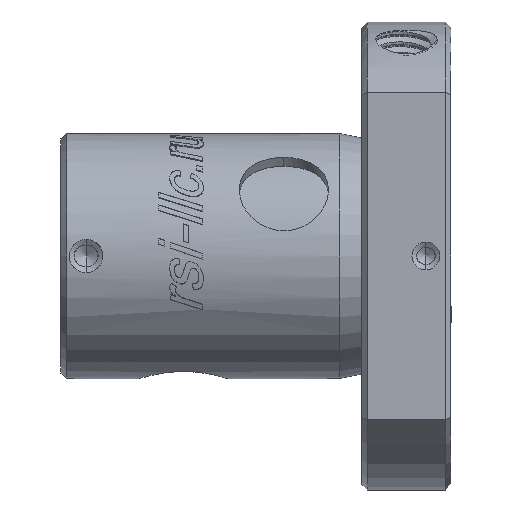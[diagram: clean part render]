
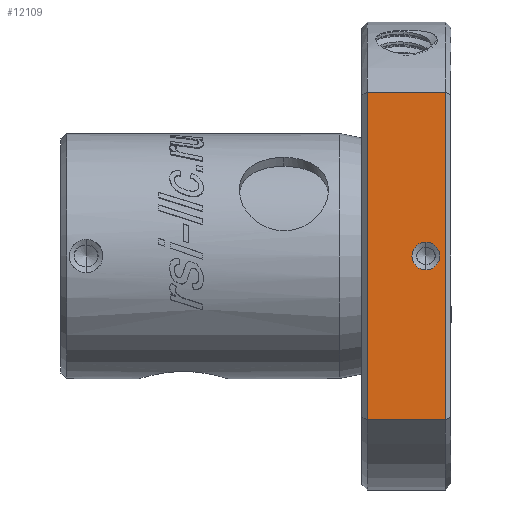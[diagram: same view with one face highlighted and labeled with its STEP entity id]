
A CAD part, left-side view. The second image highlights one B-rep face of the part: STEP entity #12109.
In plain terms, the highlighted planar face has unit normal (-1, 0, 0).
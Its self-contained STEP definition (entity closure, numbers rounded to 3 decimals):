
#29 = CARTESIAN_POINT ( 'NONE',  ( -15., 4., 14.697 ) ) ;
#160 = CARTESIAN_POINT ( 'NONE',  ( -15., -1.75, 0. ) ) ;
#574 = VERTEX_POINT ( 'NONE', #25692 ) ;
#617 = ORIENTED_EDGE ( 'NONE', *, *, #27209, .T. ) ;
#860 = FACE_BOUND ( 'NONE', #18561, .T. ) ;
#1470 = EDGE_CURVE ( 'NONE', #15155, #13333, #17891, .T. ) ;
#1780 = VECTOR ( 'NONE', #7256, 1000. ) ;
#2321 = DIRECTION ( 'NONE',  ( 0., 0., 1. ) ) ;
#2801 = CARTESIAN_POINT ( 'NONE',  ( -15., -3.5, -14.697 ) ) ;
#3237 = DIRECTION ( 'NONE',  ( -1., 0., 0. ) ) ;
#4374 = AXIS2_PLACEMENT_3D ( 'NONE', #16166, #3237, #18299 ) ;
#5169 = AXIS2_PLACEMENT_3D ( 'NONE', #8183, #10350, #25351 ) ;
#5172 = LINE ( 'NONE', #29, #17287 ) ;
#6492 = CIRCLE ( 'NONE', #15636, 1.25 ) ;
#6837 = LINE ( 'NONE', #22279, #1780 ) ;
#7045 = CARTESIAN_POINT ( 'NONE',  ( -15., -1.75, -1.25 ) ) ;
#7256 = DIRECTION ( 'NONE',  ( 0., 0., -1. ) ) ;
#7720 = DIRECTION ( 'NONE',  ( 0., 0., 1. ) ) ;
#8087 = PLANE ( 'NONE',  #5169 ) ;
#8183 = CARTESIAN_POINT ( 'NONE',  ( -15., 4., -14.697 ) ) ;
#9701 = ORIENTED_EDGE ( 'NONE', *, *, #19005, .T. ) ;
#10350 = DIRECTION ( 'NONE',  ( 1., 0., 0. ) ) ;
#11427 = VERTEX_POINT ( 'NONE', #15824 ) ;
#12109 = ADVANCED_FACE ( 'NONE', ( #860, #17335 ), #8087, .F. ) ;
#12226 = VECTOR ( 'NONE', #7720, 1000. ) ;
#12486 = VERTEX_POINT ( 'NONE', #2801 ) ;
#12837 = CARTESIAN_POINT ( 'NONE',  ( -15., -1.75, 1.25 ) ) ;
#12950 = DIRECTION ( 'NONE',  ( 0., -1., 0. ) ) ;
#13333 = VERTEX_POINT ( 'NONE', #12837 ) ;
#14873 = VECTOR ( 'NONE', #23653, 1000. ) ;
#15155 = VERTEX_POINT ( 'NONE', #7045 ) ;
#15245 = DIRECTION ( 'NONE',  ( -1., 0., 0. ) ) ;
#15636 = AXIS2_PLACEMENT_3D ( 'NONE', #160, #15245, #2321 ) ;
#15824 = CARTESIAN_POINT ( 'NONE',  ( -15., -3.5, 14.697 ) ) ;
#16048 = ORIENTED_EDGE ( 'NONE', *, *, #18393, .F. ) ;
#16166 = CARTESIAN_POINT ( 'NONE',  ( -15., -1.75, 0. ) ) ;
#17287 = VECTOR ( 'NONE', #12950, 1000. ) ;
#17335 = FACE_OUTER_BOUND ( 'NONE', #26194, .T. ) ;
#17891 = CIRCLE ( 'NONE', #4374, 1.25 ) ;
#17937 = LINE ( 'NONE', #20565, #12226 ) ;
#18299 = DIRECTION ( 'NONE',  ( 0., 0., 1. ) ) ;
#18393 = EDGE_CURVE ( 'NONE', #574, #11427, #5172, .T. ) ;
#18512 = ORIENTED_EDGE ( 'NONE', *, *, #18752, .T. ) ;
#18561 = EDGE_LOOP ( 'NONE', ( #26536, #20546 ) ) ;
#18752 = EDGE_CURVE ( 'NONE', #574, #25067, #6837, .T. ) ;
#19005 = EDGE_CURVE ( 'NONE', #12486, #11427, #17937, .T. ) ;
#20546 = ORIENTED_EDGE ( 'NONE', *, *, #1470, .F. ) ;
#20565 = CARTESIAN_POINT ( 'NONE',  ( -15., -3.5, -14.697 ) ) ;
#21513 = CARTESIAN_POINT ( 'NONE',  ( -15., 4., -14.697 ) ) ;
#22279 = CARTESIAN_POINT ( 'NONE',  ( -15., 3.5, -14.697 ) ) ;
#22796 = CARTESIAN_POINT ( 'NONE',  ( -15., 3.5, -14.697 ) ) ;
#23653 = DIRECTION ( 'NONE',  ( 0., -1., 0. ) ) ;
#24383 = EDGE_CURVE ( 'NONE', #13333, #15155, #6492, .T. ) ;
#25067 = VERTEX_POINT ( 'NONE', #22796 ) ;
#25351 = DIRECTION ( 'NONE',  ( 0., 0., -1. ) ) ;
#25692 = CARTESIAN_POINT ( 'NONE',  ( -15., 3.5, 14.697 ) ) ;
#26194 = EDGE_LOOP ( 'NONE', ( #617, #9701, #16048, #18512 ) ) ;
#26536 = ORIENTED_EDGE ( 'NONE', *, *, #24383, .F. ) ;
#26947 = LINE ( 'NONE', #21513, #14873 ) ;
#27209 = EDGE_CURVE ( 'NONE', #25067, #12486, #26947, .T. ) ;
